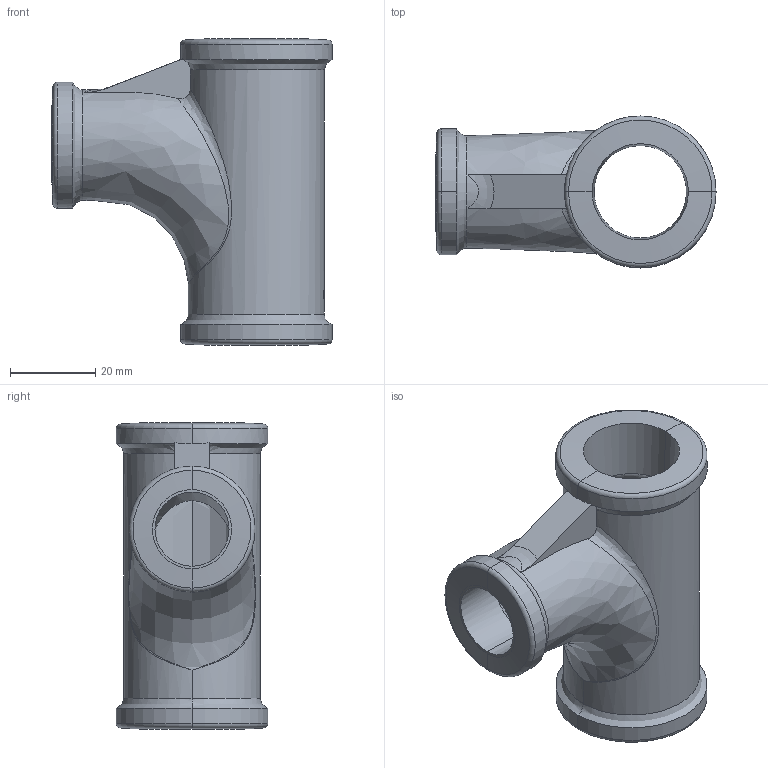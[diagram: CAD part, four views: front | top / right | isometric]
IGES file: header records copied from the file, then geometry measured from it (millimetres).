
Global section: file name: No Iges File Name specified; native system: AutoDesk Inventor R12.0; preprocessor: AutoDesk Inventor Iges Exporter R12.0; date: 20090917.103354; units: millimetre
Bounding box: 65.8 x 35.6 x 72 mm (x, y, z)
Volume: 34440.9 mm3; surface area: 19332 mm2
Topology: 1 solids, 1 shells, 66 faces, 189 edges, 123 vertices
Faces by surface type: bspline 20, plane 15, cylinder 11, revolution 8, cone 6, torus 6
